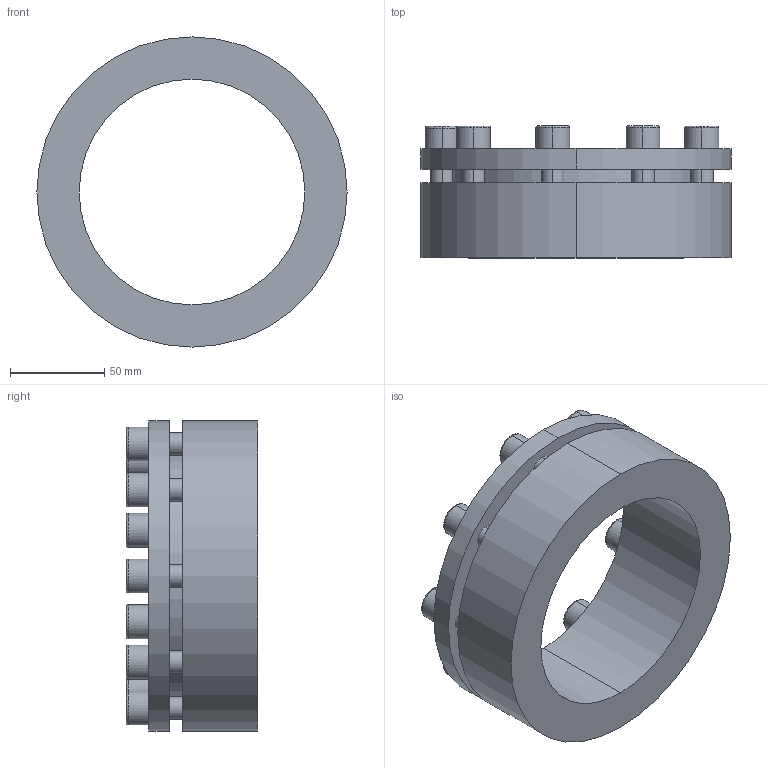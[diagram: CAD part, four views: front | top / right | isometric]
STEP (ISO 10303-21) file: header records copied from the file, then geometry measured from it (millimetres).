
FILE_DESCRIPTION (( 'STEP AP203' ), '1' );
FILE_NAME ('PL-H1 120-165.STEP', '2021-10-23T00:58:02', ( '' ), ( '' ), 'SwSTEP 2.0', 'SolidWorks 2018', '' );
FILE_SCHEMA (( 'CONFIG_CONTROL_DESIGN' ));
Length unit declared in the file: millimetre
Products named in the file (1): PL-H1 120-165
Bounding box: 165 x 70 x 165 mm (x, y, z)
Volume: 558678.8 mm3; surface area: 94824.6 mm2
Topology: 1 solids, 1 shells, 152 faces, 372 edges, 242 vertices
Faces by surface type: plane 76, cylinder 58, torus 18
Entity records: 4585 total; most frequent: DIRECTION 830, CARTESIAN_POINT 767, ORIENTED_EDGE 744, EDGE_CURVE 372, AXIS2_PLACEMENT_3D 305, VERTEX_POINT 242, VECTOR 220, LINE 220
